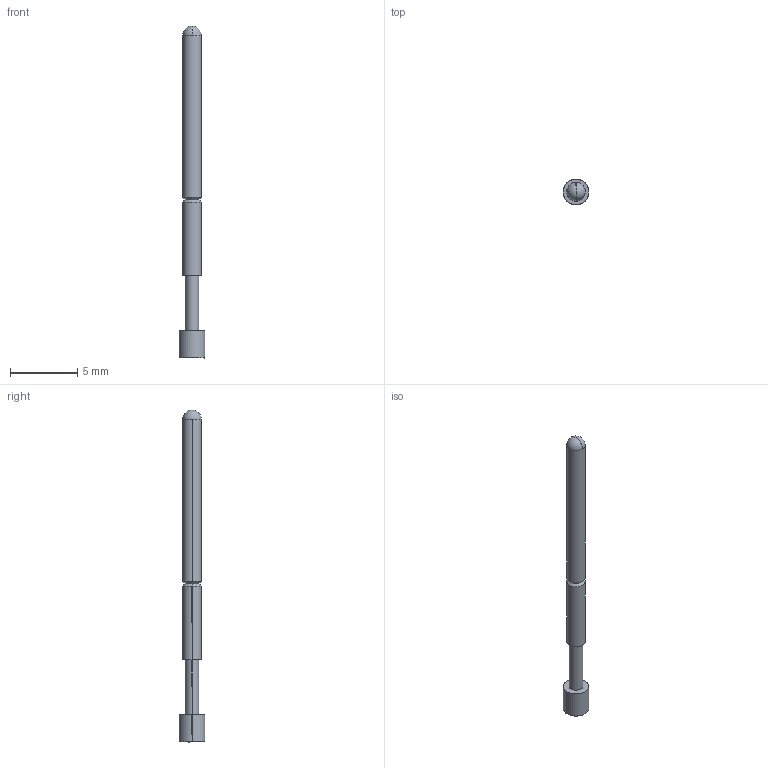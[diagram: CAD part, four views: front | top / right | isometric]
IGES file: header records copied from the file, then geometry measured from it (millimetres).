
Start section: SolidWorks IGES file using analytic representation for surfaces
Global section: file name: \\CODA-VM-SBS\RedirectedFolders\georged\My Documents\CODA CAD FILES\GENERAL PURPOSE TEST PROBES\SHORT REACH TEST PROBES\PA3\PA3A.IGS; native system: SolidWorks 2024; preprocessor: SolidWorks 2024; author: GeorgeD; date: 240710.095147; units: millimetre
Bounding box: 1.9 x 1.9 x 24.64 mm (x, y, z)
Surface area: 112 mm2 (no closed solid volume)
Topology: 0 solids, 0 shells, 18 faces, 148 edges, 144 vertices
Faces by surface type: revolution 16, bspline 2
